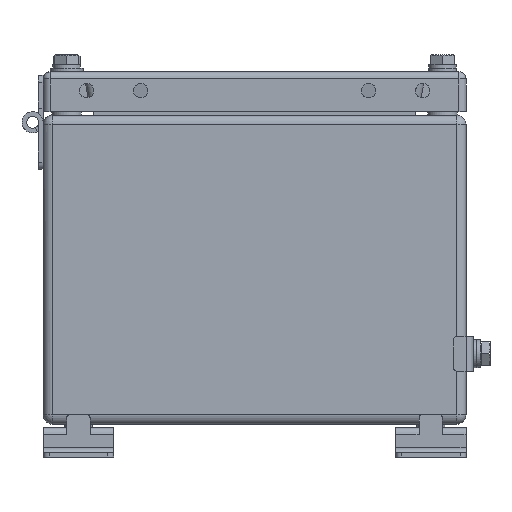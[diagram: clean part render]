
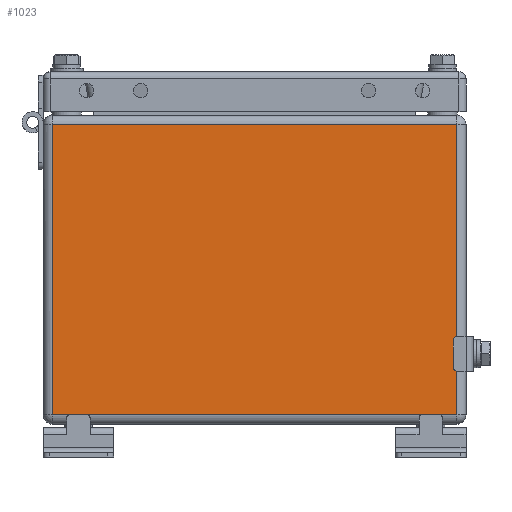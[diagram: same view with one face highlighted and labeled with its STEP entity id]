
A CAD part, front view. The second image highlights one B-rep face of the part: STEP entity #1023.
In plain terms, the highlighted planar face has unit normal (0, -1, 0).
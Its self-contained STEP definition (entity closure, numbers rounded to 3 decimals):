
#476=CARTESIAN_POINT('',(86.,-115.0,127.5));
#477=VERTEX_POINT('',#476);
#570=CARTESIAN_POINT('',(86.,-115.0,4.0));
#571=VERTEX_POINT('',#570);
#626=CARTESIAN_POINT('',(86.,-115.0,127.5));
#627=DIRECTION('',(0.0,0.0,-1.0));
#628=VECTOR('',#627,123.5);
#629=LINE('',#626,#628);
#630=EDGE_CURVE('',#477,#571,#629,.T.);
#658=CARTESIAN_POINT('',(-86.,-115.0,127.5));
#659=VERTEX_POINT('',#658);
#693=CARTESIAN_POINT('',(-86.,-115.0,4.0));
#694=VERTEX_POINT('',#693);
#725=CARTESIAN_POINT('',(86.,-115.0,4.0));
#726=DIRECTION('',(-1.0,0.0,0.0));
#727=VECTOR('',#726,172.);
#728=LINE('',#725,#727);
#729=EDGE_CURVE('',#571,#694,#728,.T.);
#747=CARTESIAN_POINT('',(-86.,-115.0,4.0));
#748=DIRECTION('',(0.0,0.0,1.0));
#749=VECTOR('',#748,123.5);
#750=LINE('',#747,#749);
#751=EDGE_CURVE('',#694,#659,#750,.T.);
#784=CARTESIAN_POINT('',(-86.,-115.0,127.5));
#785=DIRECTION('',(1.0,0.0,0.0));
#786=VECTOR('',#785,172.);
#787=LINE('',#784,#786);
#788=EDGE_CURVE('',#659,#477,#787,.T.);
#1012=CARTESIAN_POINT('',(90.,-115.0,0.0));
#1013=DIRECTION('',(0.0,-1.0,0.0));
#1014=DIRECTION('',(0.0,0.0,-1.0));
#1015=AXIS2_PLACEMENT_3D('',#1012,#1013,#1014);
#1016=PLANE('',#1015);
#1017=ORIENTED_EDGE('',*,*,#630,.F.);
#1018=ORIENTED_EDGE('',*,*,#788,.F.);
#1019=ORIENTED_EDGE('',*,*,#751,.F.);
#1020=ORIENTED_EDGE('',*,*,#729,.F.);
#1021=EDGE_LOOP('',(#1017,#1018,#1019,#1020));
#1022=FACE_OUTER_BOUND('',#1021,.T.);
#1023=ADVANCED_FACE('',(#1022),#1016,.T.);
